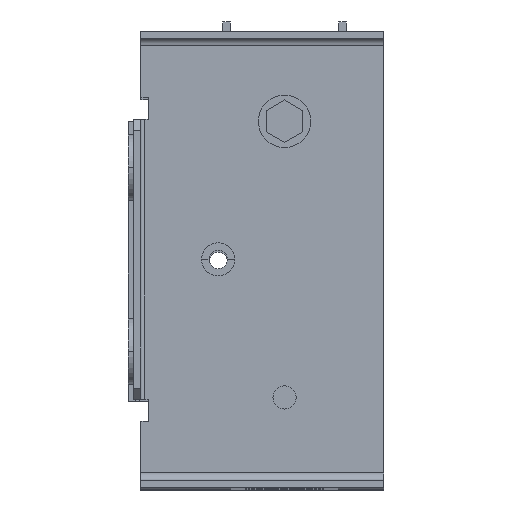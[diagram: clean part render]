
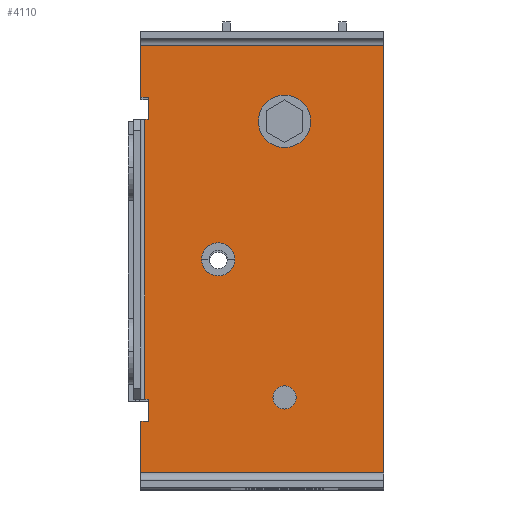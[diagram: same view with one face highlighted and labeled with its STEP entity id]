
A CAD part, top view. The second image highlights one B-rep face of the part: STEP entity #4110.
In plain terms, the highlighted planar face has unit normal (0, 0, 1).
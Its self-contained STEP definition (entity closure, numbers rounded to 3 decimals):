
#74=DIRECTION('',(1.,0.,0.));
#75=VECTOR('',#74,66.);
#76=CARTESIAN_POINT('',(3.5,-20.,347.5));
#77=LINE('',#76,#75);
#82=DIRECTION('',(1.,0.,0.));
#83=VECTOR('',#82,2.);
#84=CARTESIAN_POINT('',(3.5,-6.,347.5));
#85=LINE('',#84,#83);
#86=DIRECTION('',(1.,0.,0.));
#87=VECTOR('',#86,1.);
#88=CARTESIAN_POINT('',(4.5,76.,347.5));
#89=LINE('',#88,#87);
#90=DIRECTION('',(0.,-1.,0.));
#91=VECTOR('',#90,116.);
#92=CARTESIAN_POINT('',(69.5,96.,347.5));
#93=LINE('',#92,#91);
#94=CARTESIAN_POINT('',(42.5,0.5,347.5));
#95=DIRECTION('',(0.,0.,1.));
#96=DIRECTION('',(1.,0.,0.));
#97=AXIS2_PLACEMENT_3D('',#94,#95,#96);
#99=CARTESIAN_POINT('',(42.5,0.5,347.5));
#100=DIRECTION('',(0.,0.,1.));
#101=DIRECTION('',(-1.,0.,0.));
#102=AXIS2_PLACEMENT_3D('',#99,#100,#101);
#104=CARTESIAN_POINT('',(24.5,38.,347.5));
#105=DIRECTION('',(0.,0.,1.));
#106=DIRECTION('',(-1.,0.,0.));
#107=AXIS2_PLACEMENT_3D('',#104,#105,#106);
#109=CARTESIAN_POINT('',(24.5,38.,347.5));
#110=DIRECTION('',(0.,0.,1.));
#111=DIRECTION('',(1.,0.,0.));
#112=AXIS2_PLACEMENT_3D('',#109,#110,#111);
#114=CARTESIAN_POINT('',(42.5,75.5,347.5));
#115=DIRECTION('',(0.,0.,1.));
#116=DIRECTION('',(-0.866,-0.5,0.));
#117=AXIS2_PLACEMENT_3D('',#114,#115,#116);
#119=CARTESIAN_POINT('',(42.5,75.5,347.5));
#120=DIRECTION('',(0.,0.,1.));
#121=DIRECTION('',(0.866,0.5,0.));
#122=AXIS2_PLACEMENT_3D('',#119,#120,#121);
#132=DIRECTION('',(0.,-1.,0.));
#133=VECTOR('',#132,14.);
#134=CARTESIAN_POINT('',(3.5,-6.,347.5));
#135=LINE('',#134,#133);
#268=DIRECTION('',(-1.,0.,0.));
#269=VECTOR('',#268,66.);
#270=CARTESIAN_POINT('',(69.5,96.,347.5));
#271=LINE('',#270,#269);
#280=DIRECTION('',(0.,-1.,0.));
#281=VECTOR('',#280,14.);
#282=CARTESIAN_POINT('',(3.5,96.,347.5));
#283=LINE('',#282,#281);
#284=DIRECTION('',(1.,0.,0.));
#285=VECTOR('',#284,2.);
#286=CARTESIAN_POINT('',(3.5,82.,347.5));
#287=LINE('',#286,#285);
#292=DIRECTION('',(0.,-1.,0.));
#293=VECTOR('',#292,6.);
#294=CARTESIAN_POINT('',(5.5,82.,347.5));
#295=LINE('',#294,#293);
#326=DIRECTION('',(0.,-1.,0.));
#327=VECTOR('',#326,76.);
#328=CARTESIAN_POINT('',(4.5,76.,347.5));
#329=LINE('',#328,#327);
#404=DIRECTION('',(1.,0.,0.));
#405=VECTOR('',#404,1.);
#406=CARTESIAN_POINT('',(4.5,0.,347.5));
#407=LINE('',#406,#405);
#412=DIRECTION('',(0.,-1.,0.));
#413=VECTOR('',#412,6.);
#414=CARTESIAN_POINT('',(5.5,0.,347.5));
#415=LINE('',#414,#413);
#3052=CARTESIAN_POINT('',(3.5,-20.,347.5));
#3053=VERTEX_POINT('',#3052);
#3058=CARTESIAN_POINT('',(69.5,-20.,347.5));
#3059=VERTEX_POINT('',#3058);
#3062=CARTESIAN_POINT('',(3.5,-6.,347.5));
#3063=CARTESIAN_POINT('',(5.5,-6.,347.5));
#3064=VERTEX_POINT('',#3062);
#3065=VERTEX_POINT('',#3063);
#3066=CARTESIAN_POINT('',(5.5,0.,347.5));
#3067=VERTEX_POINT('',#3066);
#3068=CARTESIAN_POINT('',(4.5,0.,347.5));
#3069=VERTEX_POINT('',#3068);
#3070=CARTESIAN_POINT('',(4.5,76.,347.5));
#3071=VERTEX_POINT('',#3070);
#3072=CARTESIAN_POINT('',(5.5,76.,347.5));
#3073=VERTEX_POINT('',#3072);
#3074=CARTESIAN_POINT('',(5.5,82.,347.5));
#3075=VERTEX_POINT('',#3074);
#3076=CARTESIAN_POINT('',(3.5,82.,347.5));
#3077=VERTEX_POINT('',#3076);
#3078=CARTESIAN_POINT('',(3.5,96.,347.5));
#3079=VERTEX_POINT('',#3078);
#3080=CARTESIAN_POINT('',(69.5,96.,347.5));
#3081=VERTEX_POINT('',#3080);
#3082=CARTESIAN_POINT('',(45.65,0.5,347.5));
#3083=CARTESIAN_POINT('',(39.35,0.5,347.5));
#3084=VERTEX_POINT('',#3082);
#3085=VERTEX_POINT('',#3083);
#3086=CARTESIAN_POINT('',(20.,38.,347.5));
#3087=CARTESIAN_POINT('',(29.,38.,347.5));
#3088=VERTEX_POINT('',#3086);
#3089=VERTEX_POINT('',#3087);
#3090=CARTESIAN_POINT('',(36.347,71.948,347.5));
#3091=CARTESIAN_POINT('',(48.653,79.053,347.5));
#3092=VERTEX_POINT('',#3090);
#3093=VERTEX_POINT('',#3091);
#4062=CARTESIAN_POINT('',(3.5,96.,347.5));
#4063=DIRECTION('',(0.,0.,-1.));
#4064=DIRECTION('',(0.,-1.,0.));
#4065=AXIS2_PLACEMENT_3D('',#4062,#4063,#4064);
#4066=PLANE('',#4065);
#4068=ORIENTED_EDGE('',*,*,#4067,.T.);
#4070=ORIENTED_EDGE('',*,*,#4069,.F.);
#4072=ORIENTED_EDGE('',*,*,#4071,.F.);
#4074=ORIENTED_EDGE('',*,*,#4073,.F.);
#4076=ORIENTED_EDGE('',*,*,#4075,.T.);
#4078=ORIENTED_EDGE('',*,*,#4077,.F.);
#4080=ORIENTED_EDGE('',*,*,#4079,.F.);
#4082=ORIENTED_EDGE('',*,*,#4081,.F.);
#4084=ORIENTED_EDGE('',*,*,#4083,.F.);
#4086=ORIENTED_EDGE('',*,*,#4085,.T.);
#4087=ORIENTED_EDGE('',*,*,#4055,.F.);
#4089=ORIENTED_EDGE('',*,*,#4088,.F.);
#4090=EDGE_LOOP('',(#4068,#4070,#4072,#4074,#4076,#4078,#4080,#4082,#4084,#4086,
#4087,#4089));
#4091=FACE_OUTER_BOUND('',#4090,.F.);
#4093=ORIENTED_EDGE('',*,*,#4092,.T.);
#4095=ORIENTED_EDGE('',*,*,#4094,.T.);
#4096=EDGE_LOOP('',(#4093,#4095));
#4097=FACE_BOUND('',#4096,.F.);
#4099=ORIENTED_EDGE('',*,*,#4098,.T.);
#4101=ORIENTED_EDGE('',*,*,#4100,.T.);
#4102=EDGE_LOOP('',(#4099,#4101));
#4103=FACE_BOUND('',#4102,.F.);
#4105=ORIENTED_EDGE('',*,*,#4104,.T.);
#4107=ORIENTED_EDGE('',*,*,#4106,.T.);
#4108=EDGE_LOOP('',(#4105,#4107));
#4109=FACE_BOUND('',#4108,.F.);
#98=CIRCLE('',#97,3.15);
#103=CIRCLE('',#102,3.15);
#108=CIRCLE('',#107,4.5);
#113=CIRCLE('',#112,4.5);
#118=CIRCLE('',#117,7.105);
#123=CIRCLE('',#122,7.105);
#4055=EDGE_CURVE('',#3053,#3059,#77,.T.);
#4067=EDGE_CURVE('',#3064,#3065,#85,.T.);
#4069=EDGE_CURVE('',#3067,#3065,#415,.T.);
#4071=EDGE_CURVE('',#3069,#3067,#407,.T.);
#4073=EDGE_CURVE('',#3071,#3069,#329,.T.);
#4075=EDGE_CURVE('',#3071,#3073,#89,.T.);
#4077=EDGE_CURVE('',#3075,#3073,#295,.T.);
#4079=EDGE_CURVE('',#3077,#3075,#287,.T.);
#4081=EDGE_CURVE('',#3079,#3077,#283,.T.);
#4083=EDGE_CURVE('',#3081,#3079,#271,.T.);
#4085=EDGE_CURVE('',#3081,#3059,#93,.T.);
#4088=EDGE_CURVE('',#3064,#3053,#135,.T.);
#4092=EDGE_CURVE('',#3084,#3085,#98,.T.);
#4094=EDGE_CURVE('',#3085,#3084,#103,.T.);
#4098=EDGE_CURVE('',#3088,#3089,#108,.T.);
#4100=EDGE_CURVE('',#3089,#3088,#113,.T.);
#4104=EDGE_CURVE('',#3092,#3093,#118,.T.);
#4106=EDGE_CURVE('',#3093,#3092,#123,.T.);
#4110=ADVANCED_FACE('',(#4091,#4097,#4103,#4109),#4066,.F.);
